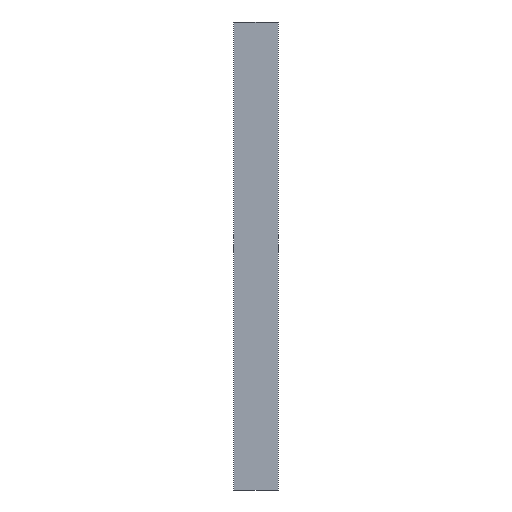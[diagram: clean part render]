
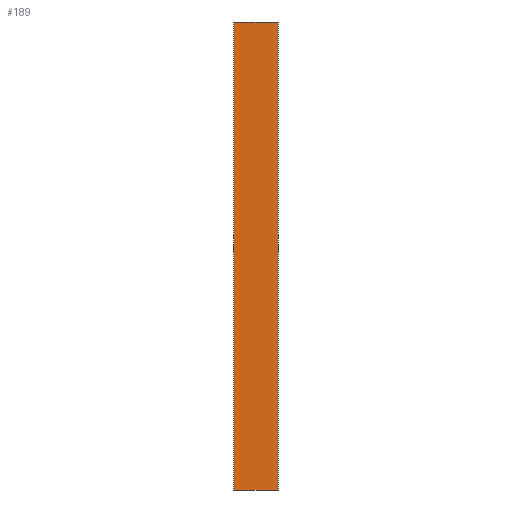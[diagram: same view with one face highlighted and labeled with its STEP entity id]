
A CAD part, left-side view. The second image highlights one B-rep face of the part: STEP entity #189.
In plain terms, the highlighted planar face has unit normal (-1, 0, 0).
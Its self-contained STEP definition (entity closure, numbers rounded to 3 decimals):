
#3 = AXIS2_PLACEMENT_3D ( 'NONE', #289, #292, #291 ) ;
#4 = EDGE_CURVE ( 'NONE', #195, #220, #159, .T. ) ;
#5 = EDGE_CURVE ( 'NONE', #220, #219, #94, .T. ) ;
#19 = EDGE_CURVE ( 'NONE', #228, #219, #171, .T. ) ;
#36 = EDGE_CURVE ( 'NONE', #195, #228, #58, .T. ) ;
#58 = LINE ( 'NONE', #237, #59 ) ;
#59 = VECTOR ( 'NONE', #338, 1000. ) ;
#80 = FACE_OUTER_BOUND ( 'NONE', #156, .T. ) ;
#94 = LINE ( 'NONE', #203, #95 ) ;
#95 = VECTOR ( 'NONE', #210, 1000. ) ;
#123 = ORIENTED_EDGE ( 'NONE', *, *, #5, .T. ) ;
#124 = ORIENTED_EDGE ( 'NONE', *, *, #4, .T. ) ;
#125 = ORIENTED_EDGE ( 'NONE', *, *, #36, .F. ) ;
#133 = ORIENTED_EDGE ( 'NONE', *, *, #19, .F. ) ;
#156 = EDGE_LOOP ( 'NONE', ( #133, #125, #124, #123 ) ) ;
#159 = LINE ( 'NONE', #205, #160 ) ;
#160 = VECTOR ( 'NONE', #230, 1000. ) ;
#171 = LINE ( 'NONE', #252, #176 ) ;
#176 = VECTOR ( 'NONE', #226, 1000. ) ;
#189 = ADVANCED_FACE ( 'NONE', ( #80 ), #288, .T. ) ;
#195 = VERTEX_POINT ( 'NONE', #214 ) ;
#203 = CARTESIAN_POINT ( 'NONE',  ( -5.25, -15., -317.1 ) ) ;
#205 = CARTESIAN_POINT ( 'NONE',  ( -5.25, -15., -317.1 ) ) ;
#210 = DIRECTION ( 'NONE',  ( 0., 0., 1. ) ) ;
#214 = CARTESIAN_POINT ( 'NONE',  ( -5.25, 15., -317.1 ) ) ;
#219 = VERTEX_POINT ( 'NONE', #318 ) ;
#220 = VERTEX_POINT ( 'NONE', #224 ) ;
#224 = CARTESIAN_POINT ( 'NONE',  ( -5.25, -15., -317.1 ) ) ;
#226 = DIRECTION ( 'NONE',  ( 0., -1., 0. ) ) ;
#228 = VERTEX_POINT ( 'NONE', #320 ) ;
#230 = DIRECTION ( 'NONE',  ( 0., -1., 0. ) ) ;
#237 = CARTESIAN_POINT ( 'NONE',  ( -5.25, 15., -317.1 ) ) ;
#252 = CARTESIAN_POINT ( 'NONE',  ( -5.25, -15., 0. ) ) ;
#288 = PLANE ( 'NONE',  #3 ) ;
#289 = CARTESIAN_POINT ( 'NONE',  ( -5.25, -15., -317.1 ) ) ;
#291 = DIRECTION ( 'NONE',  ( 0., 0., 1. ) ) ;
#292 = DIRECTION ( 'NONE',  ( -1., 0., 0. ) ) ;
#318 = CARTESIAN_POINT ( 'NONE',  ( -5.25, -15., 0. ) ) ;
#320 = CARTESIAN_POINT ( 'NONE',  ( -5.25, 15., 0. ) ) ;
#338 = DIRECTION ( 'NONE',  ( 0., 0., 1. ) ) ;
